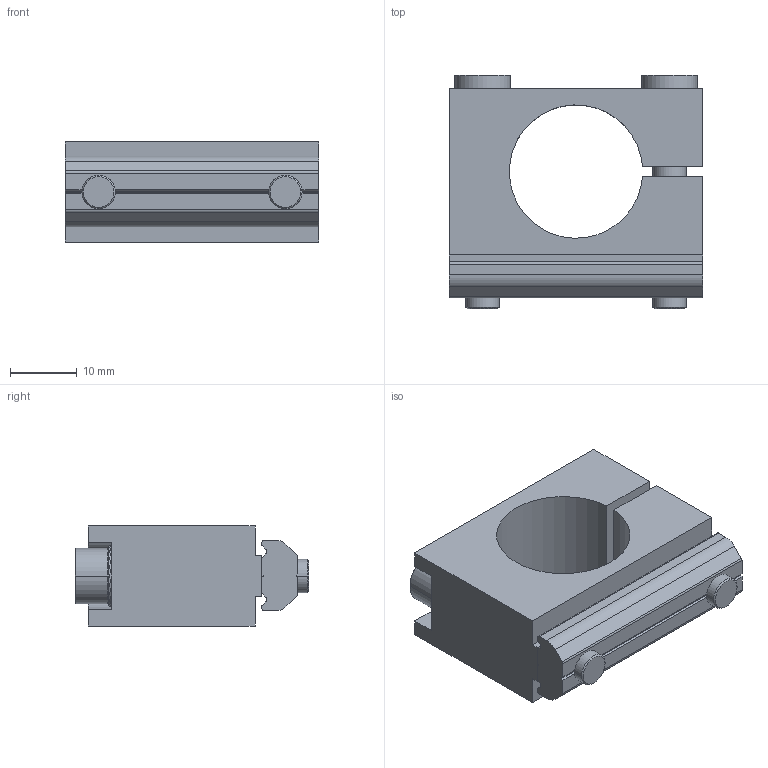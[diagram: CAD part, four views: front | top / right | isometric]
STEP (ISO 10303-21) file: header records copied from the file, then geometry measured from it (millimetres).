
FILE_DESCRIPTION (( 'STEP AP214' ), '1' );
FILE_NAME ('SMBC-2038.STEP', '2019-10-31T06:16:35', ( '微软用户' ), ( '微软中国' ), 'SwSTEP 2.0', 'SolidWorks 2016', '' );
FILE_SCHEMA (( 'AUTOMOTIVE_DESIGN' ));
Length unit declared in the file: millimetre
Products named in the file (5): PTN-M5P28; PTC-M5L30; PTS-M5; SMBC-2038
Assembly tree (6 placements, depth 2):
  SMBC-2038
    SMBC-2038
    PTS-M5  x2
    PTC-M5L30  x2
    PTN-M5P28
Bounding box: 38 x 35 x 15 mm (x, y, z)
Volume: 11317.7 mm3; surface area: 8167.7 mm2
Topology: 6 solids, 6 shells, 448 faces, 1300 edges, 860 vertices
Faces by surface type: plane 389, cylinder 47, cone 12
Entity records: 9084 total; most frequent: CARTESIAN_POINT 1723, ORIENTED_EDGE 1532, DIRECTION 1524, EDGE_CURVE 766, AXIS2_PLACEMENT_3D 511, VERTEX_POINT 506, LINE 502, VECTOR 502
